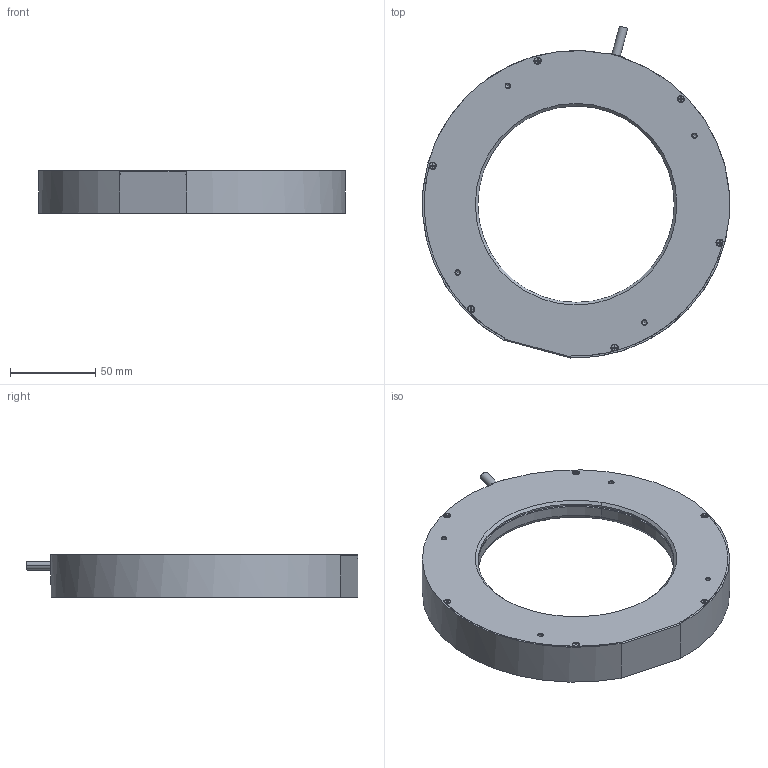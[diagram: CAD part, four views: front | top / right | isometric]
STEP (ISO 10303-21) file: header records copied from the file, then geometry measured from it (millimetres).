
FILE_DESCRIPTION((''),'2;1');
FILE_NAME('180-60','2024-03-29T18:09:12',('qiaoxuan5'),(''),'CREO PARAMETRIC BY PTC INC, 2020044','CREO PARAMETRIC BY PTC INC, 2020044','');
FILE_SCHEMA(('CONFIG_CONTROL_DESIGN'));
Length unit declared in the file: millimetre
Products named in the file (1): 180-60
Bounding box: 179.69 x 194.33 x 25 mm (x, y, z)
Volume: 184318.9 mm3; surface area: 87616.2 mm2
Topology: 1 solids, 13 shells, 636 faces, 1471 edges, 869 vertices
Faces by surface type: plane 346, cylinder 175, cone 78, torus 33, sphere 4
Entity records: 18868 total; most frequent: CARTESIAN_POINT 4445, DIRECTION 3034, ORIENTED_EDGE 2918, EDGE_CURVE 1459, AXIS2_PLACEMENT_3D 1076, VECTOR 882, LINE 882, VERTEX_POINT 869
